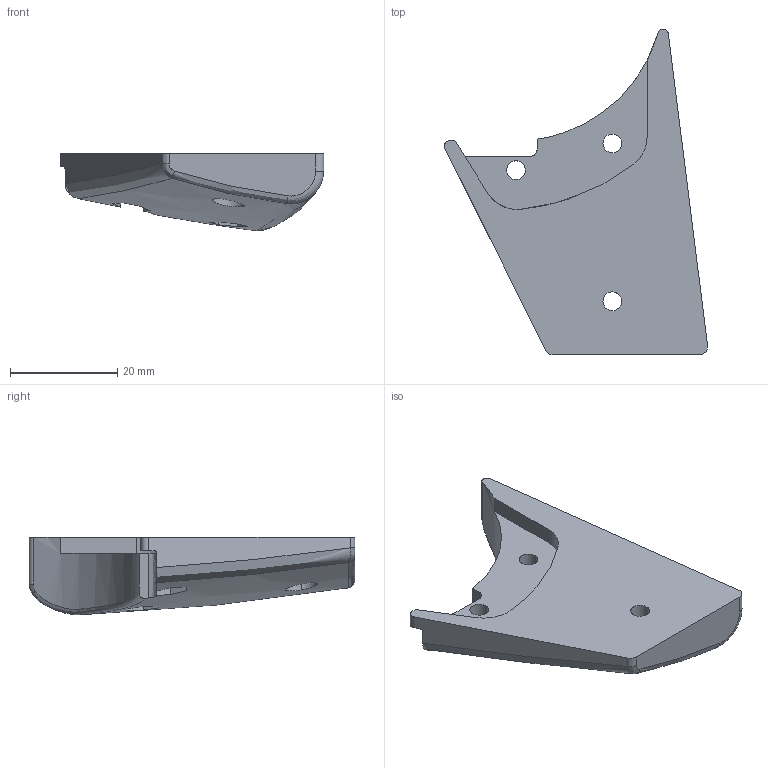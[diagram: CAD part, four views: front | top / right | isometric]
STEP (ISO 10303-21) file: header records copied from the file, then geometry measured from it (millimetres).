
FILE_DESCRIPTION(/* description */ (''),/* implementation_level */ '2;1');
FILE_NAME(/* name */ 'GRC170~1',/* time_stamp */ '2015-10-29T17:12:31+09:00',/* author */ (''),/* organization */ (''),/* preprocessor_version */ 'ST-DEVELOPER v15',/* originating_system */ '',/* authorisation */ '');
FILE_SCHEMA (('CONFIG_CONTROL_DESIGN'));
Length unit declared in the file: millimetre
Products named in the file (1): Document
Bounding box: 49.18 x 60.85 x 14.45 mm (x, y, z)
Volume: 15193.4 mm3; surface area: 5427.1 mm2
Topology: 1 solids, 1 shells, 53 faces, 140 edges, 91 vertices
Faces by surface type: bspline 36, plane 17
Entity records: 2438 total; most frequent: CARTESIAN_POINT 1511, ORIENTED_EDGE 280, EDGE_CURVE 140, VERTEX_POINT 91, B_SPLINE_CURVE_WITH_KNOTS 90, EDGE_LOOP 61, ADVANCED_FACE 53, FACE_OUTER_BOUND 53
